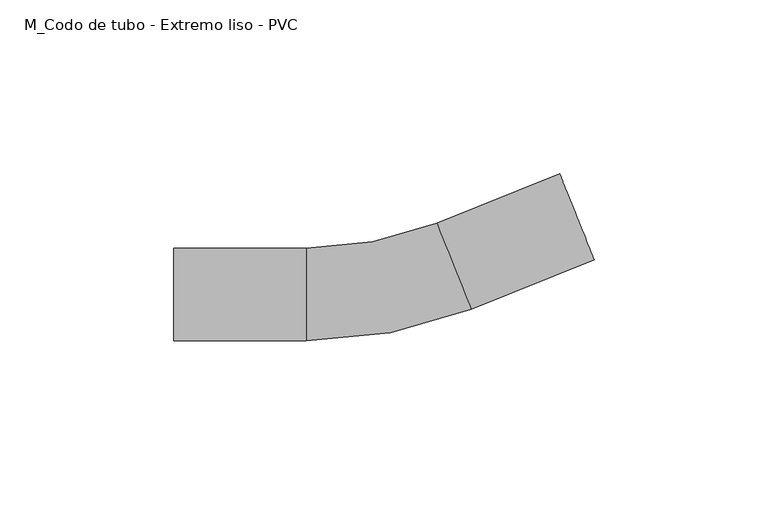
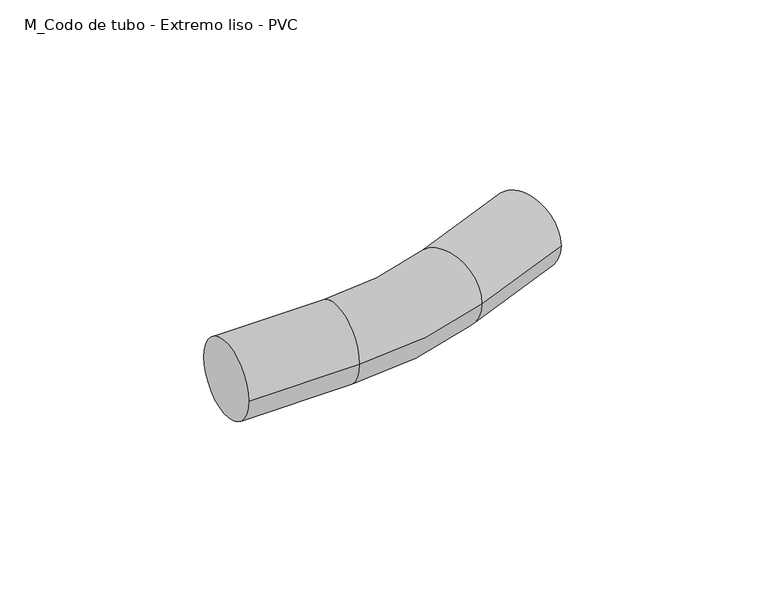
"""IFC4 building model written with IfcOpenShell, lengths in millimetres: cable carrier fitting geometry, M_Codo de tubo - Extremo liso - PVC : CODO ILUMINACION."""

from ifc_helpers import new_model, si_unit, point, frame, origin, place, context, project, spatial, circle_curve, ellipse_curve, trimmed, source, transform, mapped, element, save
from ifc_brep_helpers import plane_surface, cylinder_surface, revolved_surface, advanced_brep


def m_codo_de_tubo_extremo_liso_pvc_83c0c0e9(model_context):
    return source(origin(), model_context, "Body", "AdvancedBrep", [
        advanced_brep(
        [(-60.1048244, -13.335, 0.0), (-60.1048244, 13.335, 0.0), (-22.0048244, -13.335, 0.0), (-22.0048244, 13.335, 0.0), (15.4810187, 20.5517051, 0.0), (25.3829395, -4.2119954, 0.0), (60.7596545, 9.9336057, 0.0), (50.8577337, 34.6973062, 0.0)],
        [
            (0, 1, circle_curve(frame((-60.1048244, 0.0, 0.0), z_axis=(-1.0, 0.0, 0.0), x_axis=(0.0, 1.0, 0.0)), 13.335)),
            (1, 0, circle_curve(frame((-60.1048244, 0.0, 0.0), z_axis=(-1.0, 0.0, 0.0), x_axis=(0.0, 1.0, 0.0)), 13.335)),
            (0, 2),
            (2, 3, circle_curve(frame((-22.0048244, 0.0, 0.0), z_axis=(-1.0, 0.0, 0.0), x_axis=(0.0, 1.0, 0.0)), 13.335)),
            (3, 1),
            (3, 2, circle_curve(frame((-22.0048244, 0.0, 0.0), z_axis=(-1.0, 0.0, 0.0), x_axis=(0.0, 1.0, 0.0)), 13.335)),
            (4, 3, circle_curve(frame((-22.0048244, 114.3, 0.0), z_axis=(0.0, 0.0, -1.0), x_axis=(0.0, -1.0, 0.0)), 100.965)),
            (2, 5, circle_curve(frame((-22.0048244, 114.3, 0.0), z_axis=(0.0, 0.0, 1.0), x_axis=(0.0, -1.0, 0.0)), 127.635)),
            (5, 4, circle_curve(frame((20.4319791, 8.1698548, 0.0), z_axis=(-0.9285227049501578, -0.37127562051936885, 0.0), x_axis=(-0.37127562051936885, 0.9285227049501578, 0.0)), 13.335)),
            (4, 5, circle_curve(frame((20.4319791, 8.1698548, 0.0), z_axis=(-0.9285227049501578, -0.37127562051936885, 0.0), x_axis=(-0.37127562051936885, 0.9285227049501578, 0.0)), 13.335)),
            (6, 7, circle_curve(frame((55.8086941, 22.315456, 0.0), z_axis=(0.9285227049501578, 0.37127562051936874, 0.0), x_axis=(-0.37127562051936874, 0.9285227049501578, 0.0)), 13.335)),
            (7, 6, circle_curve(frame((55.8086941, 22.315456, 0.0), z_axis=(0.9285227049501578, 0.37127562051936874, 0.0), x_axis=(-0.37127562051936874, 0.9285227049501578, 0.0)), 13.335)),
            (5, 6),
            (7, 4),
        ],
        [
            plane_surface(frame((-60.1048244, 0.0, 0.0), z_axis=(-1.0, 0.0, 0.0), x_axis=(0.0, 0.0, 1.0))),
            cylinder_surface(frame((-60.1048244, 0.0, 0.0), z_axis=(-1.0, 0.0, 0.0), x_axis=(0.0, 1.0, 0.0)), 13.335),
            revolved_surface(trimmed(ellipse_curve(frame((-22.0048244, 0.0, 0.0), z_axis=(-1.0, 0.0, 0.0), x_axis=(0.0, 1.0, 0.0)), 13.335, 13.335), [point((-22.0048244, -13.335, 0.0))], [point((-22.0048244, 13.335, 0.0))], True, "CARTESIAN"), (-22.0048244, 114.3, 0.0), (0.0, 0.0, 1.0)),
            revolved_surface(trimmed(ellipse_curve(frame((-22.0048244, 0.0, 0.0), z_axis=(-1.0, 0.0, 0.0), x_axis=(0.0, 1.0, 0.0)), 13.335, 13.335), [point((-22.0048244, 13.335, 0.0))], [point((-22.0048244, -13.335, 0.0))], True, "CARTESIAN"), (-22.0048244, 114.3, 0.0), (0.0, 0.0, 1.0)),
            plane_surface(frame((55.8086941, 22.315456, 0.0), z_axis=(0.9285227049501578, 0.3712756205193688, 0.0), x_axis=(0.0, 0.0, 1.0))),
            cylinder_surface(frame((20.4319791, 8.1698548, 0.0), z_axis=(-0.9285227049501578, -0.37127562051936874, 0.0), x_axis=(-0.37127562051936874, 0.9285227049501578, 0.0)), 13.335),
        ],
        [
            (0, [[1, 2]]),
            (1, [[-1, 3, 4, 5]]),
            (1, [[-2, -5, 6, -3]]),
            (2, [[7, -4, 8, 9]]),
            (3, [[-8, -6, -7, 10]]),
            (4, [[11, 12]]),
            (5, [[-9, 13, -12, 14]]),
            (5, [[-10, -14, -11, -13]]),
        ],
    ),
    ])


if __name__ == "__main__":
    model = new_model("IFC4")
    model_context = context("Model", 3, world=origin())
    ifc_project = project(units=[si_unit("LENGTHUNIT", "METRE", prefix="MILLI")], contexts=[model_context])
    site = spatial("IfcSite", under=ifc_project)
    building = spatial("IfcBuilding", under=site)
    placement = place(None, origin())
    m_codo_de_tubo_extremo_liso_pvc_shape = m_codo_de_tubo_extremo_liso_pvc_83c0c0e9(model_context)
    element("IfcCableCarrierFitting", 1, ObjectType="M_Codo de tubo - Extremo liso - PVC : CODO ILUMINACION", at=placement, inside=building, context=model_context, shape_type="MappedRepresentation", body=[
        mapped(m_codo_de_tubo_extremo_liso_pvc_shape, transform((0.0, 0.0, 0.0), x_axis=(1.0, 0.0, 0.0), y_axis=(0.0, 1.0, 0.0), z_axis=(0.0, 0.0, 1.0))),
    ])
    save(model, "model.ifc")
